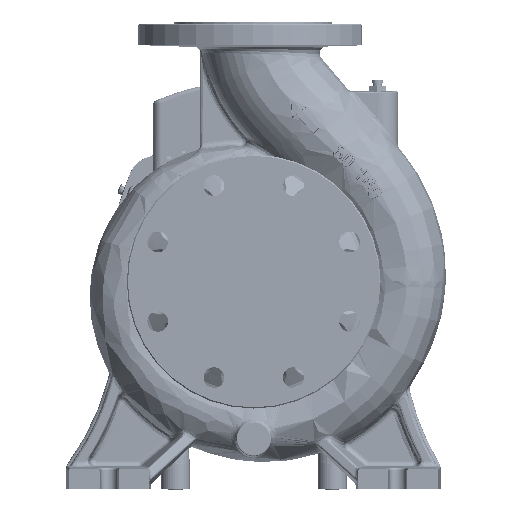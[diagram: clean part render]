
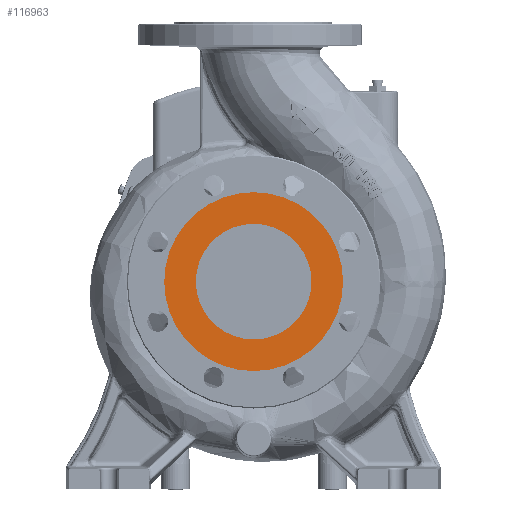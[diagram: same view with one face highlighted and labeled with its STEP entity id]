
A CAD part, left-side view. The second image highlights one B-rep face of the part: STEP entity #116963.
In plain terms, the highlighted planar face has unit normal (-1, 0, 0).
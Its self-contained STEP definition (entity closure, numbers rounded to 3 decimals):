
#6001 = AXIS2_PLACEMENT_3D ( 'NONE', #7627, #133753, #148479 ) ;
#7627 = CARTESIAN_POINT ( 'NONE',  ( -264.5, 0., 0. ) ) ;
#11766 = DIRECTION ( 'NONE',  ( 0., -1., 0. ) ) ;
#16923 = FACE_BOUND ( 'NONE', #54488, .T. ) ;
#21332 = CARTESIAN_POINT ( 'NONE',  ( -264.5, -50.119, 0. ) ) ;
#22202 = AXIS2_PLACEMENT_3D ( 'NONE', #85799, #29629, #154875 ) ;
#27592 = EDGE_CURVE ( 'NONE', #54809, #78672, #63345, .T. ) ;
#29629 = DIRECTION ( 'NONE',  ( -1., 0., 0. ) ) ;
#33883 = ORIENTED_EDGE ( 'NONE', *, *, #64828, .F. ) ;
#50141 = DIRECTION ( 'NONE',  ( 1., 0., 0. ) ) ;
#54488 = EDGE_LOOP ( 'NONE', ( #176404, #134080 ) ) ;
#54809 = VERTEX_POINT ( 'NONE', #21332 ) ;
#58221 = AXIS2_PLACEMENT_3D ( 'NONE', #67033, #150789, #11766 ) ;
#63345 = CIRCLE ( 'NONE', #22202, 50.119 ) ;
#64828 = EDGE_CURVE ( 'NONE', #152008, #96202, #120637, .T. ) ;
#67033 = CARTESIAN_POINT ( 'NONE',  ( -264.5, 0., 0. ) ) ;
#73073 = PLANE ( 'NONE',  #149007 ) ;
#78672 = VERTEX_POINT ( 'NONE', #85702 ) ;
#83476 = CARTESIAN_POINT ( 'NONE',  ( -264.5, 77.5, 0. ) ) ;
#85702 = CARTESIAN_POINT ( 'NONE',  ( -264.5, 50.119, 0. ) ) ;
#85799 = CARTESIAN_POINT ( 'NONE',  ( -264.5, 0., 0. ) ) ;
#86913 = DIRECTION ( 'NONE',  ( 0., 1., 0. ) ) ;
#91803 = EDGE_CURVE ( 'NONE', #96202, #152008, #121079, .T. ) ;
#93356 = CARTESIAN_POINT ( 'NONE',  ( -264.5, 0., 0. ) ) ;
#96202 = VERTEX_POINT ( 'NONE', #83476 ) ;
#104848 = CARTESIAN_POINT ( 'NONE',  ( -264.5, -77.5, 0. ) ) ;
#108074 = DIRECTION ( 'NONE',  ( 0., -1., 0. ) ) ;
#114070 = CIRCLE ( 'NONE', #58221, 50.119 ) ;
#116311 = FACE_OUTER_BOUND ( 'NONE', #179948, .T. ) ;
#116963 = ADVANCED_FACE ( 'NONE', ( #116311, #16923 ), #73073, .F. ) ;
#118232 = EDGE_CURVE ( 'NONE', #78672, #54809, #114070, .T. ) ;
#120637 = CIRCLE ( 'NONE', #6001, 77.5 ) ;
#121079 = CIRCLE ( 'NONE', #144582, 77.5 ) ;
#129213 = DIRECTION ( 'NONE',  ( 1., 0., 0. ) ) ;
#130119 = CARTESIAN_POINT ( 'NONE',  ( -264.5, 0., 0. ) ) ;
#133753 = DIRECTION ( 'NONE',  ( 1., 0., 0. ) ) ;
#134080 = ORIENTED_EDGE ( 'NONE', *, *, #118232, .F. ) ;
#144582 = AXIS2_PLACEMENT_3D ( 'NONE', #93356, #50141, #108074 ) ;
#147835 = ORIENTED_EDGE ( 'NONE', *, *, #91803, .F. ) ;
#148479 = DIRECTION ( 'NONE',  ( 0., -1., 0. ) ) ;
#149007 = AXIS2_PLACEMENT_3D ( 'NONE', #130119, #129213, #86913 ) ;
#150789 = DIRECTION ( 'NONE',  ( -1., 0., 0. ) ) ;
#152008 = VERTEX_POINT ( 'NONE', #104848 ) ;
#154875 = DIRECTION ( 'NONE',  ( 0., -1., 0. ) ) ;
#176404 = ORIENTED_EDGE ( 'NONE', *, *, #27592, .F. ) ;
#179948 = EDGE_LOOP ( 'NONE', ( #147835, #33883 ) ) ;
